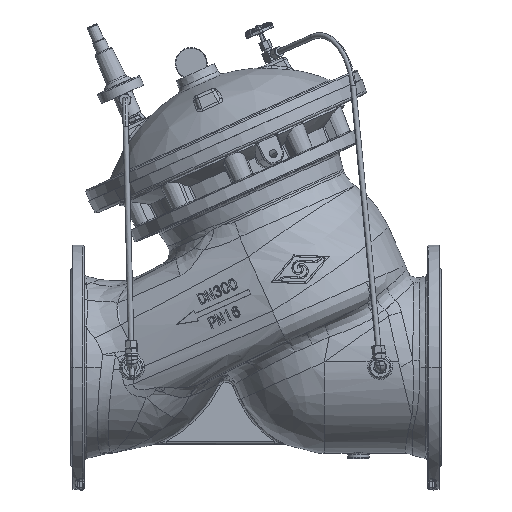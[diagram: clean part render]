
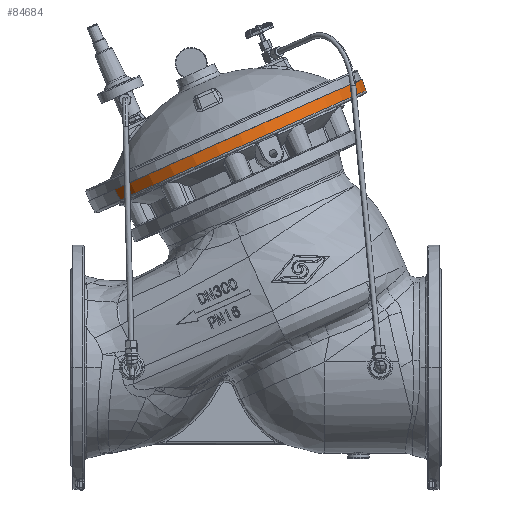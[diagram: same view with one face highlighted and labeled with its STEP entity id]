
A CAD part, top view. The second image highlights one B-rep face of the part: STEP entity #84684.
In plain terms, the highlighted conical face has half-angle 5 degrees and reference radius 282.37 mm.
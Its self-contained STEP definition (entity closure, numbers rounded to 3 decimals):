
#2074 = VECTOR ( 'NONE', #63500, 1000. ) ;
#3981 = ORIENTED_EDGE ( 'NONE', *, *, #170424, .T. ) ;
#6217 = CARTESIAN_POINT ( 'NONE',  ( -317.882, 214.621, 165.566 ) ) ;
#7944 = DIRECTION ( 'NONE',  ( -0.341, 0.939, -0.051 ) ) ;
#10038 = ORIENTED_EDGE ( 'NONE', *, *, #221202, .F. ) ;
#11909 = AXIS2_PLACEMENT_3D ( 'NONE', #263993, #113465, #223269 ) ;
#16260 = EDGE_CURVE ( 'NONE', #75027, #212498, #178191, .T. ) ;
#28966 = LINE ( 'NONE', #235835, #2074 ) ;
#30178 = CARTESIAN_POINT ( 'NONE',  ( 107.714, 379.549, -164.415 ) ) ;
#35212 = DIRECTION ( 'NONE',  ( -0.407, 0.914, 0. ) ) ;
#42453 = EDGE_LOOP ( 'NONE', ( #3981, #86021, #90139, #126118, #10038 ) ) ;
#63500 = DIRECTION ( 'NONE',  ( -0.47, 0.881, 0.051 ) ) ;
#63733 = AXIS2_PLACEMENT_3D ( 'NONE', #221264, #91545, #242958 ) ;
#65577 = CIRCLE ( 'NONE', #235184, 280.407 ) ;
#75027 = VERTEX_POINT ( 'NONE', #109156 ) ;
#75097 = DIRECTION ( 'NONE',  ( -0.74, -0.329, 0.586 ) ) ;
#84684 = ADVANCED_FACE ( 'NONE', ( #129107 ), #210375, .T. ) ;
#86021 = ORIENTED_EDGE ( 'NONE', *, *, #16260, .T. ) ;
#90139 = ORIENTED_EDGE ( 'NONE', *, *, #161920, .T. ) ;
#91545 = DIRECTION ( 'NONE',  ( -0.407, 0.914, 0. ) ) ;
#105174 = VERTEX_POINT ( 'NONE', #6217 ) ;
#109156 = CARTESIAN_POINT ( 'NONE',  ( 108.364, 379.839, -163.428 ) ) ;
#113465 = DIRECTION ( 'NONE',  ( -0.407, 0.914, 0. ) ) ;
#126118 = ORIENTED_EDGE ( 'NONE', *, *, #227792, .F. ) ;
#129107 = FACE_OUTER_BOUND ( 'NONE', #42453, .T. ) ;
#144064 = VERTEX_POINT ( 'NONE', #214169 ) ;
#161920 = EDGE_CURVE ( 'NONE', #212498, #144064, #231732, .T. ) ;
#170424 = EDGE_CURVE ( 'NONE', #196717, #75027, #65577, .T. ) ;
#170936 = VECTOR ( 'NONE', #7944, 1000. ) ;
#178191 = CIRCLE ( 'NONE', #63733, 280.407 ) ;
#183106 = DIRECTION ( 'NONE',  ( -0.407, 0.914, 0. ) ) ;
#188691 = CARTESIAN_POINT ( 'NONE',  ( -307.304, 194.772, 164.415 ) ) ;
#196717 = VERTEX_POINT ( 'NONE', #188691 ) ;
#202046 = CARTESIAN_POINT ( 'NONE',  ( -99.795, 287.161, 0. ) ) ;
#210375 = CONICAL_SURFACE ( 'NONE', #11909, 282.37, 0.087 ) ;
#212498 = VERTEX_POINT ( 'NONE', #30178 ) ;
#214169 = CARTESIAN_POINT ( 'NONE',  ( 100.041, 400.692, -165.566 ) ) ;
#221202 = EDGE_CURVE ( 'NONE', #196717, #105174, #28966, .T. ) ;
#221264 = CARTESIAN_POINT ( 'NONE',  ( -99.795, 287.161, 0. ) ) ;
#223269 = DIRECTION ( 'NONE',  ( -0.74, -0.329, 0.586 ) ) ;
#227792 = EDGE_CURVE ( 'NONE', #105174, #144064, #274164, .T. ) ;
#231732 = LINE ( 'NONE', #234313, #170936 ) ;
#233875 = DIRECTION ( 'NONE',  ( -0.74, -0.329, 0.586 ) ) ;
#234313 = CARTESIAN_POINT ( 'NONE',  ( 100.041, 400.692, -165.566 ) ) ;
#235184 = AXIS2_PLACEMENT_3D ( 'NONE', #202046, #183106, #75097 ) ;
#235835 = CARTESIAN_POINT ( 'NONE',  ( -317.882, 214.621, 165.566 ) ) ;
#242958 = DIRECTION ( 'NONE',  ( -0.74, -0.329, 0.586 ) ) ;
#255661 = CARTESIAN_POINT ( 'NONE',  ( -108.92, 307.657, 0. ) ) ;
#263993 = CARTESIAN_POINT ( 'NONE',  ( -108.92, 307.657, 0. ) ) ;
#274164 = CIRCLE ( 'NONE', #280246, 282.37 ) ;
#280246 = AXIS2_PLACEMENT_3D ( 'NONE', #255661, #35212, #233875 ) ;
